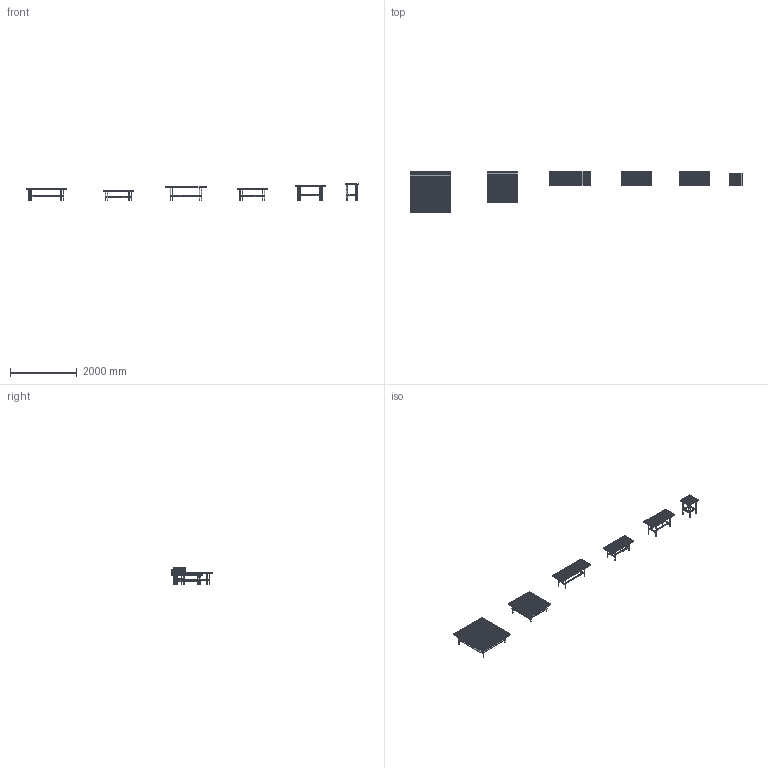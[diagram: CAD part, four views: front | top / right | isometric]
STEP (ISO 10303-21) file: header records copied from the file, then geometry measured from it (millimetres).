
FILE_DESCRIPTION(/* description */ (''),/* implementation_level */ '2;1');
FILE_NAME(/* name */ 'WAVES_~1',/* time_stamp */ '2019-05-27T12:24:23+02:00',/* author */ (''),/* organization */ (''),/* preprocessor_version */ 'ST-DEVELOPER v16.5',/* originating_system */ '',/* authorisation */ '');
FILE_SCHEMA (('CONFIG_CONTROL_DESIGN'));
Length unit declared in the file: millimetre
Products named in the file (1): Document
Bounding box: 9940.14 x 1201.85 x 500 mm (x, y, z)
Volume: 102660426.9 mm3; surface area: 40015349.6 mm2
Topology: 664 solids, 664 shells, 3912 faces, 7753 edges, 5170 vertices
Faces by surface type: plane 3888, bspline 24
Entity records: 86263 total; most frequent: CARTESIAN_POINT 25334, ORIENTED_EDGE 15504, EDGE_CURVE 7752, B_SPLINE_CURVE_WITH_KNOTS 7681, VERTEX_POINT 5168, ADVANCED_FACE 3912, FACE_OUTER_BOUND 3912, EDGE_LOOP 3912
